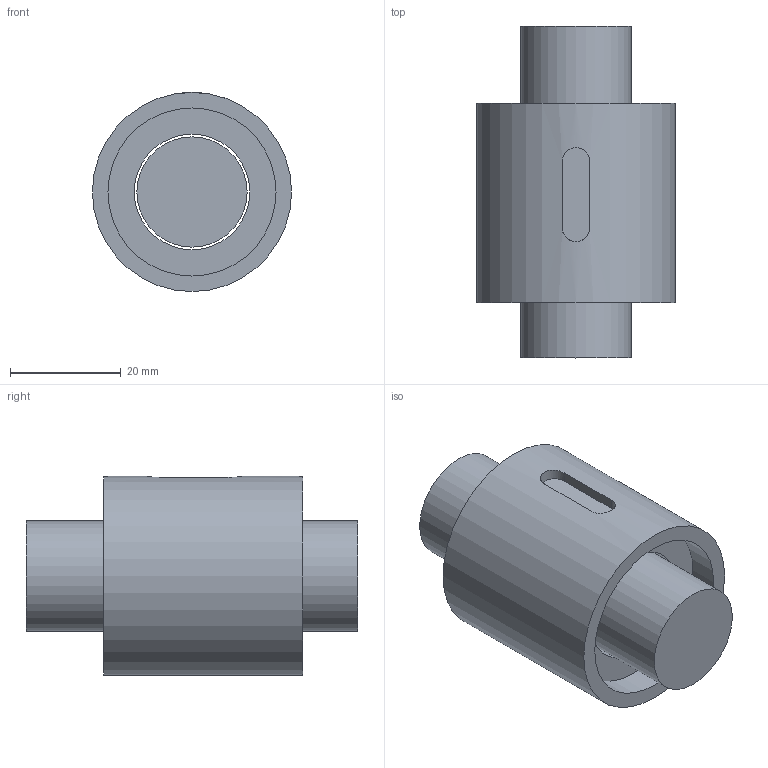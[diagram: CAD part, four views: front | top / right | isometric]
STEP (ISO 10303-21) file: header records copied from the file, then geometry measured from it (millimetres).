
FILE_DESCRIPTION(/* description */ (''),/* implementation_level */ '2;1');
FILE_NAME(/* name */ '2005.prt.step',/* time_stamp */ '2008-12-05T16:34:07+08:00',/* author */ (''),/* organization */ (''),/* preprocessor_version */ 'ST-DEVELOPER v11',/* originating_system */ 'SIEMENS UGS NX 6.0',/* authorisation */ '');
FILE_SCHEMA (('AUTOMOTIVE_DESIGN { 1 0 10303 214 1 1 1 1 }'));
Length unit declared in the file: millimetre
Products named in the file (1): 2005
Bounding box: 36 x 60 x 36 mm (x, y, z)
Volume: 38836.2 mm3; surface area: 12560.5 mm2
Topology: 2 solids, 2 shells, 16 faces, 28 edges, 19 vertices
Faces by surface type: plane 9, cylinder 7
Full cylindrical faces by diameter (mm): 19.95 x1, 20.9 x1, 30.4 x2, 36 x1
Entity records: 448 total; most frequent: CARTESIAN_POINT 117, DIRECTION 66, ORIENTED_EDGE 44, AXIS2_PLACEMENT_3D 29, EDGE_LOOP 26, EDGE_CURVE 22, FACE_BOUND 19, VERTEX_POINT 18
